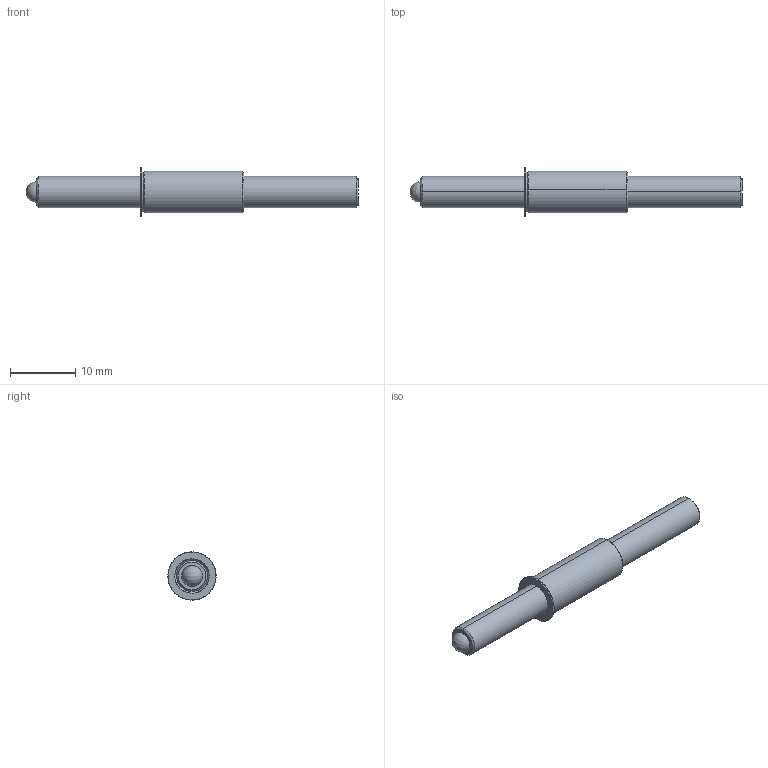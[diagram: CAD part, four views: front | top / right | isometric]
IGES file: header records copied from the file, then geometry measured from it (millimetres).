
Start section: SolidWorks IGES file using analytic representation for surfaces
Global section: file name: C:\Users\workpc\Desktop\KMA Solidworks\TSB187-100-2000_625.IGS; native system: SolidWorks 2013; preprocessor: SolidWorks 2013; author: workpc; date: 130313.093814; units: inch
Bounding box: 50.8 x 7.37 x 7.37 mm (x, y, z)
Surface area: 1172.7 mm2 (no closed solid volume)
Topology: 0 solids, 0 shells, 33 faces, 406 edges, 402 vertices
Faces by surface type: revolution 22, bspline 11
